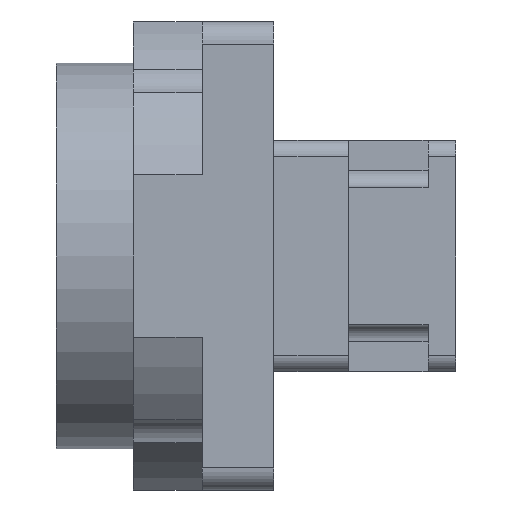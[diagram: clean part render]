
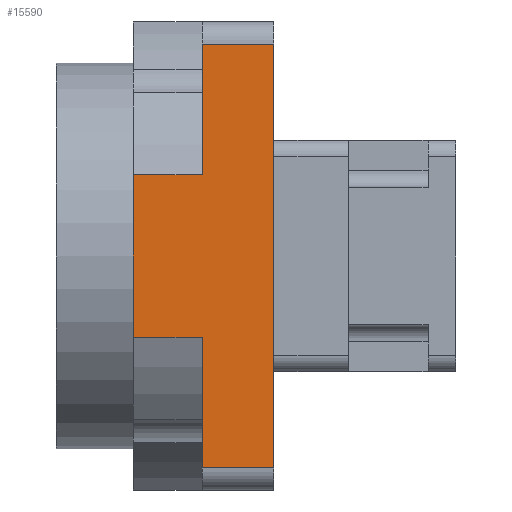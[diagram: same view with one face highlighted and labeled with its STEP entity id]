
A CAD part, left-side view. The second image highlights one B-rep face of the part: STEP entity #15590.
In plain terms, the highlighted planar face has unit normal (-1, 0, 0).
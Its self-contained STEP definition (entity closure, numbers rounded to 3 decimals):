
#2145 = PLANE('',#2146);
#2146 = AXIS2_PLACEMENT_3D('',#2147,#2148,#2149);
#2147 = CARTESIAN_POINT('',(8.42,-20.005,126.5));
#2148 = DIRECTION('',(0.,-1.,0.));
#2149 = DIRECTION('',(0.,-0.,-1.));
#3082 = PLANE('',#3083);
#3083 = AXIS2_PLACEMENT_3D('',#3084,#3085,#3086);
#3084 = CARTESIAN_POINT('',(19.92,-7.005,123.5));
#3085 = DIRECTION('',(0.,1.,0.));
#3086 = DIRECTION('',(0.,-0.,1.));
#3202 = PLANE('',#3203);
#3203 = AXIS2_PLACEMENT_3D('',#3204,#3205,#3206);
#3204 = CARTESIAN_POINT('',(19.92,-7.005,123.5));
#3205 = DIRECTION('',(0.,1.,0.));
#3206 = DIRECTION('',(0.,-0.,1.));
#3787 = PLANE('',#3788);
#3788 = AXIS2_PLACEMENT_3D('',#3789,#3790,#3791);
#3789 = CARTESIAN_POINT('',(-38.08,5.495,105.5));
#3790 = DIRECTION('',(0.,1.,0.));
#3791 = DIRECTION('',(0.,-0.,1.));
#12703 = CYLINDRICAL_SURFACE('',#12704,45.);
#12704 = AXIS2_PLACEMENT_3D('',#12705,#12706,#12707);
#12705 = CARTESIAN_POINT('',(-38.08,5.495,105.5));
#12706 = DIRECTION('',(-0.,-1.,-0.));
#12707 = DIRECTION('',(0.,0.,-1.));
#12905 = CYLINDRICAL_SURFACE('',#12906,45.);
#12906 = AXIS2_PLACEMENT_3D('',#12907,#12908,#12909);
#12907 = CARTESIAN_POINT('',(-38.08,5.495,105.5));
#12908 = DIRECTION('',(-0.,-1.,-0.));
#12909 = DIRECTION('',(0.,0.,-1.));
#13321 = VERTEX_POINT('',#13322);
#13322 = CARTESIAN_POINT('',(-80.58,-7.005,
    90.71));
#13348 = EDGE_CURVE('',#13321,#13349,#13351,.T.);
#13349 = VERTEX_POINT('',#13350);
#13350 = CARTESIAN_POINT('',(-80.58,5.495,
    90.71));
#13351 = SURFACE_CURVE('',#13352,(#13356,#13363),.PCURVE_S1.);
#13352 = LINE('',#13353,#13354);
#13353 = CARTESIAN_POINT('',(-80.58,-7.005,
    90.71));
#13354 = VECTOR('',#13355,1.);
#13355 = DIRECTION('',(0.,1.,0.));
#13356 = PCURVE('',#12905,#13357);
#13357 = DEFINITIONAL_REPRESENTATION('',(#13358),#13362);
#13358 = LINE('',#13359,#13360);
#13359 = CARTESIAN_POINT('',(5.047,12.5));
#13360 = VECTOR('',#13361,1.);
#13361 = DIRECTION('',(0.,-1.));
#13362 = ( GEOMETRIC_REPRESENTATION_CONTEXT(2) 
PARAMETRIC_REPRESENTATION_CONTEXT() REPRESENTATION_CONTEXT('2D SPACE',''
  ) );
#13363 = PCURVE('',#13364,#13369);
#13364 = PLANE('',#13365);
#13365 = AXIS2_PLACEMENT_3D('',#13366,#13367,#13368);
#13366 = CARTESIAN_POINT('',(-80.58,-7.005,67.));
#13367 = DIRECTION('',(1.,0.,0.));
#13368 = DIRECTION('',(0.,0.,-1.));
#13369 = DEFINITIONAL_REPRESENTATION('',(#13370),#13374);
#13370 = LINE('',#13371,#13372);
#13371 = CARTESIAN_POINT('',(-23.71,0.));
#13372 = VECTOR('',#13373,1.);
#13373 = DIRECTION('',(0.,1.));
#13374 = ( GEOMETRIC_REPRESENTATION_CONTEXT(2) 
PARAMETRIC_REPRESENTATION_CONTEXT() REPRESENTATION_CONTEXT('2D SPACE',''
  ) );
#13403 = VERTEX_POINT('',#13404);
#13404 = CARTESIAN_POINT('',(-80.58,5.495,
    120.29));
#13426 = EDGE_CURVE('',#13403,#13427,#13429,.T.);
#13427 = VERTEX_POINT('',#13428);
#13428 = CARTESIAN_POINT('',(-80.58,-7.005,
    120.29));
#13429 = SURFACE_CURVE('',#13430,(#13434,#13441),.PCURVE_S1.);
#13430 = LINE('',#13431,#13432);
#13431 = CARTESIAN_POINT('',(-80.58,-7.005,
    120.29));
#13432 = VECTOR('',#13433,1.);
#13433 = DIRECTION('',(-0.,-1.,-0.));
#13434 = PCURVE('',#12703,#13435);
#13435 = DEFINITIONAL_REPRESENTATION('',(#13436),#13440);
#13436 = LINE('',#13437,#13438);
#13437 = CARTESIAN_POINT('',(4.377,12.5));
#13438 = VECTOR('',#13439,1.);
#13439 = DIRECTION('',(0.,1.));
#13440 = ( GEOMETRIC_REPRESENTATION_CONTEXT(2) 
PARAMETRIC_REPRESENTATION_CONTEXT() REPRESENTATION_CONTEXT('2D SPACE',''
  ) );
#13441 = PCURVE('',#13364,#13442);
#13442 = DEFINITIONAL_REPRESENTATION('',(#13443),#13447);
#13443 = LINE('',#13444,#13445);
#13444 = CARTESIAN_POINT('',(-53.29,0.));
#13445 = VECTOR('',#13446,1.);
#13446 = DIRECTION('',(0.,-1.));
#13447 = ( GEOMETRIC_REPRESENTATION_CONTEXT(2) 
PARAMETRIC_REPRESENTATION_CONTEXT() REPRESENTATION_CONTEXT('2D SPACE',''
  ) );
#13479 = EDGE_CURVE('',#13427,#13480,#13482,.T.);
#13480 = VERTEX_POINT('',#13481);
#13481 = CARTESIAN_POINT('',(-80.58,-7.005,144.));
#13482 = SURFACE_CURVE('',#13483,(#13487,#13494),.PCURVE_S1.);
#13483 = LINE('',#13484,#13485);
#13484 = CARTESIAN_POINT('',(-80.58,-7.005,67.));
#13485 = VECTOR('',#13486,1.);
#13486 = DIRECTION('',(0.,-0.,1.));
#13487 = PCURVE('',#3082,#13488);
#13488 = DEFINITIONAL_REPRESENTATION('',(#13489),#13493);
#13489 = LINE('',#13490,#13491);
#13490 = CARTESIAN_POINT('',(-56.5,-100.5));
#13491 = VECTOR('',#13492,1.);
#13492 = DIRECTION('',(1.,0.));
#13493 = ( GEOMETRIC_REPRESENTATION_CONTEXT(2) 
PARAMETRIC_REPRESENTATION_CONTEXT() REPRESENTATION_CONTEXT('2D SPACE',''
  ) );
#13494 = PCURVE('',#13364,#13495);
#13495 = DEFINITIONAL_REPRESENTATION('',(#13496),#13500);
#13496 = LINE('',#13497,#13498);
#13497 = CARTESIAN_POINT('',(0.,0.));
#13498 = VECTOR('',#13499,1.);
#13499 = DIRECTION('',(-1.,0.));
#13500 = ( GEOMETRIC_REPRESENTATION_CONTEXT(2) 
PARAMETRIC_REPRESENTATION_CONTEXT() REPRESENTATION_CONTEXT('2D SPACE',''
  ) );
#13523 = CYLINDRICAL_SURFACE('',#13524,4.);
#13524 = AXIS2_PLACEMENT_3D('',#13525,#13526,#13527);
#13525 = CARTESIAN_POINT('',(-76.58,-7.005,144.));
#13526 = DIRECTION('',(-0.,-1.,-0.));
#13527 = DIRECTION('',(0.,0.,-1.));
#14278 = EDGE_CURVE('',#13349,#13403,#14279,.T.);
#14279 = SURFACE_CURVE('',#14280,(#14284,#14291),.PCURVE_S1.);
#14280 = LINE('',#14281,#14282);
#14281 = CARTESIAN_POINT('',(-80.58,5.495,67.));
#14282 = VECTOR('',#14283,1.);
#14283 = DIRECTION('',(0.,-0.,1.));
#14284 = PCURVE('',#3787,#14285);
#14285 = DEFINITIONAL_REPRESENTATION('',(#14286),#14290);
#14286 = LINE('',#14287,#14288);
#14287 = CARTESIAN_POINT('',(-38.5,-42.5));
#14288 = VECTOR('',#14289,1.);
#14289 = DIRECTION('',(1.,0.));
#14290 = ( GEOMETRIC_REPRESENTATION_CONTEXT(2) 
PARAMETRIC_REPRESENTATION_CONTEXT() REPRESENTATION_CONTEXT('2D SPACE',''
  ) );
#14291 = PCURVE('',#13364,#14292);
#14292 = DEFINITIONAL_REPRESENTATION('',(#14293),#14297);
#14293 = LINE('',#14294,#14295);
#14294 = CARTESIAN_POINT('',(0.,12.5));
#14295 = VECTOR('',#14296,1.);
#14296 = DIRECTION('',(-1.,0.));
#14297 = ( GEOMETRIC_REPRESENTATION_CONTEXT(2) 
PARAMETRIC_REPRESENTATION_CONTEXT() REPRESENTATION_CONTEXT('2D SPACE',''
  ) );
#14381 = VERTEX_POINT('',#14382);
#14382 = CARTESIAN_POINT('',(-80.58,-7.005,67.));
#14401 = CYLINDRICAL_SURFACE('',#14402,4.);
#14402 = AXIS2_PLACEMENT_3D('',#14403,#14404,#14405);
#14403 = CARTESIAN_POINT('',(-76.58,-7.005,67.));
#14404 = DIRECTION('',(-0.,-1.,-0.));
#14405 = DIRECTION('',(0.,0.,-1.));
#14413 = EDGE_CURVE('',#14381,#13321,#14414,.T.);
#14414 = SURFACE_CURVE('',#14415,(#14419,#14426),.PCURVE_S1.);
#14415 = LINE('',#14416,#14417);
#14416 = CARTESIAN_POINT('',(-80.58,-7.005,67.));
#14417 = VECTOR('',#14418,1.);
#14418 = DIRECTION('',(0.,-0.,1.));
#14419 = PCURVE('',#3202,#14420);
#14420 = DEFINITIONAL_REPRESENTATION('',(#14421),#14425);
#14421 = LINE('',#14422,#14423);
#14422 = CARTESIAN_POINT('',(-56.5,-100.5));
#14423 = VECTOR('',#14424,1.);
#14424 = DIRECTION('',(1.,0.));
#14425 = ( GEOMETRIC_REPRESENTATION_CONTEXT(2) 
PARAMETRIC_REPRESENTATION_CONTEXT() REPRESENTATION_CONTEXT('2D SPACE',''
  ) );
#14426 = PCURVE('',#13364,#14427);
#14427 = DEFINITIONAL_REPRESENTATION('',(#14428),#14432);
#14428 = LINE('',#14429,#14430);
#14429 = CARTESIAN_POINT('',(0.,0.));
#14430 = VECTOR('',#14431,1.);
#14431 = DIRECTION('',(-1.,0.));
#14432 = ( GEOMETRIC_REPRESENTATION_CONTEXT(2) 
PARAMETRIC_REPRESENTATION_CONTEXT() REPRESENTATION_CONTEXT('2D SPACE',''
  ) );
#15545 = VERTEX_POINT('',#15546);
#15546 = CARTESIAN_POINT('',(-80.58,-20.005,144.));
#15570 = EDGE_CURVE('',#13480,#15545,#15571,.T.);
#15571 = SURFACE_CURVE('',#15572,(#15576,#15583),.PCURVE_S1.);
#15572 = LINE('',#15573,#15574);
#15573 = CARTESIAN_POINT('',(-80.58,-7.005,144.));
#15574 = VECTOR('',#15575,1.);
#15575 = DIRECTION('',(-0.,-1.,-0.));
#15576 = PCURVE('',#13523,#15577);
#15577 = DEFINITIONAL_REPRESENTATION('',(#15578),#15582);
#15578 = LINE('',#15579,#15580);
#15579 = CARTESIAN_POINT('',(4.712,0.));
#15580 = VECTOR('',#15581,1.);
#15581 = DIRECTION('',(0.,1.));
#15582 = ( GEOMETRIC_REPRESENTATION_CONTEXT(2) 
PARAMETRIC_REPRESENTATION_CONTEXT() REPRESENTATION_CONTEXT('2D SPACE',''
  ) );
#15583 = PCURVE('',#13364,#15584);
#15584 = DEFINITIONAL_REPRESENTATION('',(#15585),#15589);
#15585 = LINE('',#15586,#15587);
#15586 = CARTESIAN_POINT('',(-77.,0.));
#15587 = VECTOR('',#15588,1.);
#15588 = DIRECTION('',(0.,-1.));
#15589 = ( GEOMETRIC_REPRESENTATION_CONTEXT(2) 
PARAMETRIC_REPRESENTATION_CONTEXT() REPRESENTATION_CONTEXT('2D SPACE',''
  ) );
#15590 = ADVANCED_FACE('',(#15591),#13364,.F.);
#15591 = FACE_BOUND('',#15592,.T.);
#15592 = EDGE_LOOP('',(#15593,#15594,#15595,#15596,#15597,#15598,#15621,
    #15642));
#15593 = ORIENTED_EDGE('',*,*,#13479,.F.);
#15594 = ORIENTED_EDGE('',*,*,#13426,.F.);
#15595 = ORIENTED_EDGE('',*,*,#14278,.F.);
#15596 = ORIENTED_EDGE('',*,*,#13348,.F.);
#15597 = ORIENTED_EDGE('',*,*,#14413,.F.);
#15598 = ORIENTED_EDGE('',*,*,#15599,.F.);
#15599 = EDGE_CURVE('',#15600,#14381,#15602,.T.);
#15600 = VERTEX_POINT('',#15601);
#15601 = CARTESIAN_POINT('',(-80.58,-20.005,67.));
#15602 = SURFACE_CURVE('',#15603,(#15607,#15614),.PCURVE_S1.);
#15603 = LINE('',#15604,#15605);
#15604 = CARTESIAN_POINT('',(-80.58,-7.005,67.));
#15605 = VECTOR('',#15606,1.);
#15606 = DIRECTION('',(0.,1.,0.));
#15607 = PCURVE('',#13364,#15608);
#15608 = DEFINITIONAL_REPRESENTATION('',(#15609),#15613);
#15609 = LINE('',#15610,#15611);
#15610 = CARTESIAN_POINT('',(0.,0.));
#15611 = VECTOR('',#15612,1.);
#15612 = DIRECTION('',(0.,1.));
#15613 = ( GEOMETRIC_REPRESENTATION_CONTEXT(2) 
PARAMETRIC_REPRESENTATION_CONTEXT() REPRESENTATION_CONTEXT('2D SPACE',''
  ) );
#15614 = PCURVE('',#14401,#15615);
#15615 = DEFINITIONAL_REPRESENTATION('',(#15616),#15620);
#15616 = LINE('',#15617,#15618);
#15617 = CARTESIAN_POINT('',(4.712,0.));
#15618 = VECTOR('',#15619,1.);
#15619 = DIRECTION('',(0.,-1.));
#15620 = ( GEOMETRIC_REPRESENTATION_CONTEXT(2) 
PARAMETRIC_REPRESENTATION_CONTEXT() REPRESENTATION_CONTEXT('2D SPACE',''
  ) );
#15621 = ORIENTED_EDGE('',*,*,#15622,.F.);
#15622 = EDGE_CURVE('',#15545,#15600,#15623,.T.);
#15623 = SURFACE_CURVE('',#15624,(#15628,#15635),.PCURVE_S1.);
#15624 = LINE('',#15625,#15626);
#15625 = CARTESIAN_POINT('',(-80.58,-20.005,126.5));
#15626 = VECTOR('',#15627,1.);
#15627 = DIRECTION('',(0.,-0.,-1.));
#15628 = PCURVE('',#13364,#15629);
#15629 = DEFINITIONAL_REPRESENTATION('',(#15630),#15634);
#15630 = LINE('',#15631,#15632);
#15631 = CARTESIAN_POINT('',(-59.5,-13.));
#15632 = VECTOR('',#15633,1.);
#15633 = DIRECTION('',(1.,-0.));
#15634 = ( GEOMETRIC_REPRESENTATION_CONTEXT(2) 
PARAMETRIC_REPRESENTATION_CONTEXT() REPRESENTATION_CONTEXT('2D SPACE',''
  ) );
#15635 = PCURVE('',#2145,#15636);
#15636 = DEFINITIONAL_REPRESENTATION('',(#15637),#15641);
#15637 = LINE('',#15638,#15639);
#15638 = CARTESIAN_POINT('',(-0.,-89.));
#15639 = VECTOR('',#15640,1.);
#15640 = DIRECTION('',(1.,0.));
#15641 = ( GEOMETRIC_REPRESENTATION_CONTEXT(2) 
PARAMETRIC_REPRESENTATION_CONTEXT() REPRESENTATION_CONTEXT('2D SPACE',''
  ) );
#15642 = ORIENTED_EDGE('',*,*,#15570,.F.);
